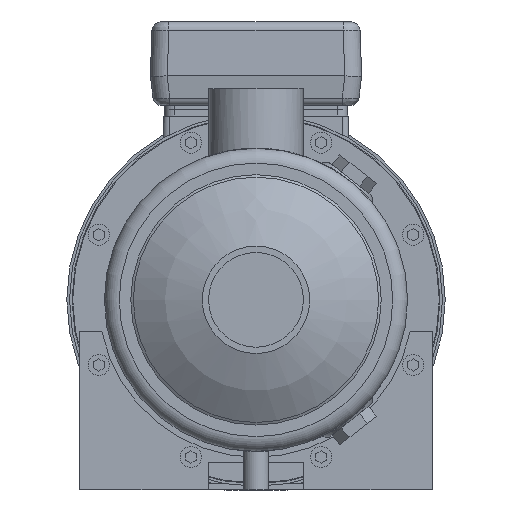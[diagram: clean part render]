
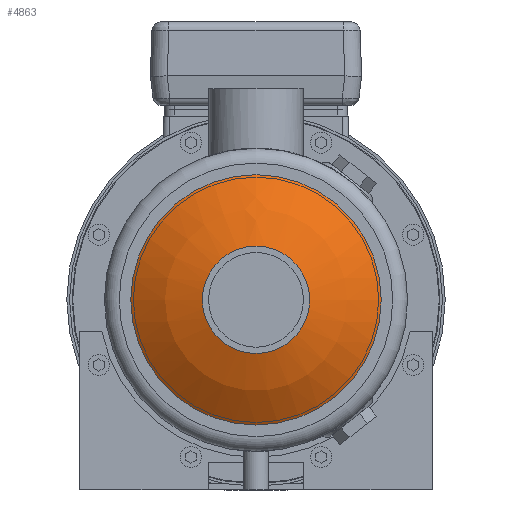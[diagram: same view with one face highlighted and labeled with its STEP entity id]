
A CAD part, left-side view. The second image highlights one B-rep face of the part: STEP entity #4863.
In plain terms, the highlighted spherical face has radius 100 mm.
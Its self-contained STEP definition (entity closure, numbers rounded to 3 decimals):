
#87=SPHERICAL_SURFACE('',#6537,100.);
#1105=ORIENTED_EDGE('',*,*,#2450,.T.);
#1106=ORIENTED_EDGE('',*,*,#2449,.F.);
#2449=EDGE_CURVE('',#3126,#3126,#3589,.T.);
#2450=EDGE_CURVE('',#3127,#3127,#3590,.T.);
#3126=VERTEX_POINT('',#8759);
#3127=VERTEX_POINT('',#8762);
#3589=CIRCLE('',#6536,25.4);
#3590=CIRCLE('',#6538,59.25);
#3814=EDGE_LOOP('',(#1105));
#3815=EDGE_LOOP('',(#1106));
#4256=FACE_BOUND('',#3814,.T.);
#4257=FACE_BOUND('',#3815,.T.);
#4863=ADVANCED_FACE('',(#4256,#4257),#87,.T.);
#6536=AXIS2_PLACEMENT_3D('',#8758,#7142,#7143);
#6537=AXIS2_PLACEMENT_3D('',#8760,#7144,#7145);
#6538=AXIS2_PLACEMENT_3D('',#8761,#7146,#7147);
#7142=DIRECTION('',(-1.,0.,0.));
#7143=DIRECTION('',(0.,0.,1.));
#7144=DIRECTION('',(-1.,0.,0.));
#7145=DIRECTION('',(0.,0.,1.));
#7146=DIRECTION('',(-1.,0.,0.));
#7147=DIRECTION('',(0.,0.,1.));
#8758=CARTESIAN_POINT('',(-202.02,0.,0.));
#8759=CARTESIAN_POINT('',(-202.02,0.,25.4));
#8760=CARTESIAN_POINT('',(-105.3,0.,0.));
#8761=CARTESIAN_POINT('',(-185.857,0.,0.));
#8762=CARTESIAN_POINT('',(-185.857,0.,59.25));
